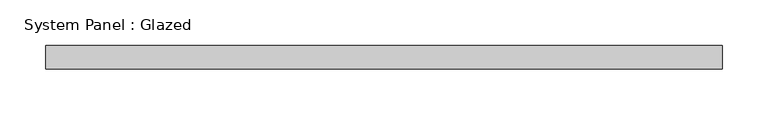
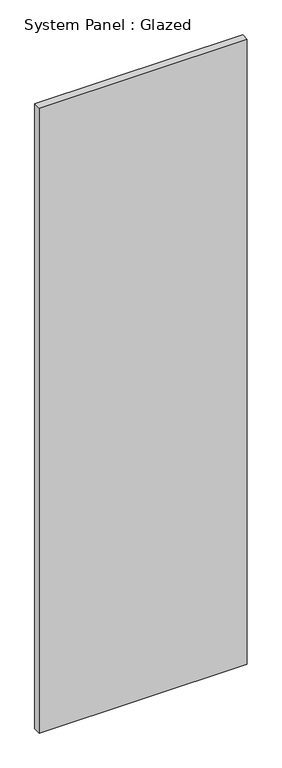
"""IFC4 building model written with IfcOpenShell, lengths in millimetres: plate geometry, System Panel : Glazed."""

from ifc_helpers import new_model, si_unit, origin, origin_with_axes, place, context, project, spatial, polyline, outline, extrude, source, transform, mapped, element, save


def system_panel_glazed_f9de1280(model_context):
    return source(origin(), model_context, "Body", "SweptSolid", [
        extrude(outline(polyline([(369.57, 19.05), (-369.57, 19.05), (-369.57, 44.45), (369.57, 44.45), (369.57, 19.05)])), origin_with_axes(), (0.0, 0.0, 1.0), 2343.15),
    ])


if __name__ == "__main__":
    model = new_model("IFC4")
    model_context = context("Model", 3, world=origin())
    ifc_project = project(units=[si_unit("LENGTHUNIT", "METRE", prefix="MILLI")], contexts=[model_context])
    site = spatial("IfcSite", under=ifc_project)
    building = spatial("IfcBuilding", under=site)
    placement = place(None, origin())
    system_panel_glazed_shape = system_panel_glazed_f9de1280(model_context)
    element("IfcPlate", 1, ObjectType="System Panel : Glazed", at=placement, inside=building, context=model_context, shape_type="MappedRepresentation", body=[
        mapped(system_panel_glazed_shape, transform((0.0, 0.0, 0.0), x_axis=(1.0, 0.0, 0.0), y_axis=(0.0, 1.0, 0.0), z_axis=(0.0, 0.0, 1.0))),
    ])
    save(model, "model.ifc")
